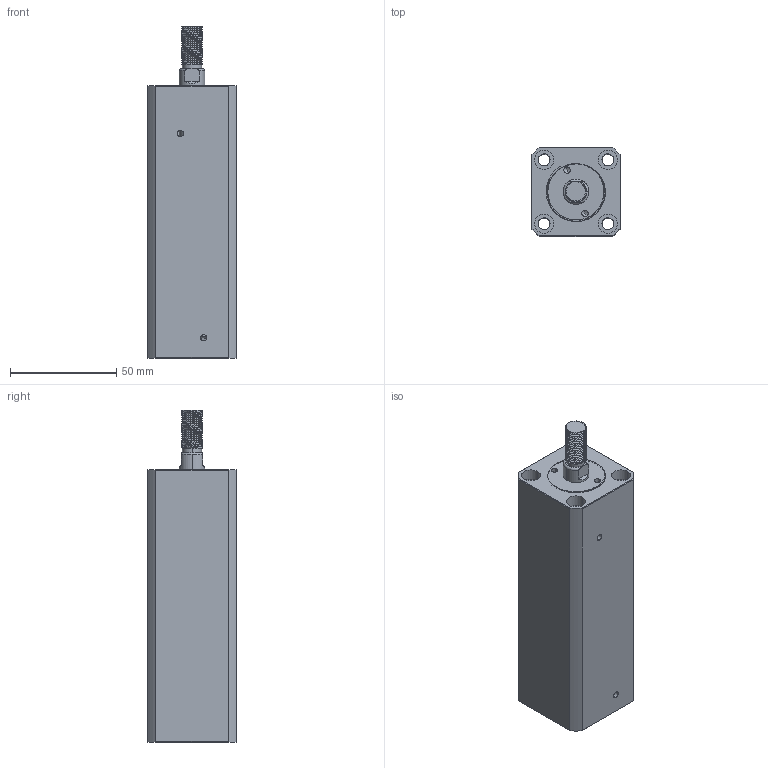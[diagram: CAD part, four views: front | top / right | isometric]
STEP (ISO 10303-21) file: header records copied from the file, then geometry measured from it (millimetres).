
FILE_DESCRIPTION (( 'STEP AP214' ), '1' );
FILE_NAME ('chtb-sdmb20x85w_asm.STEP', '2018-05-18T08:37:59', ( 'Windows' ), ( 'Microsoft' ), 'SwSTEP 2.0', 'SolidWorks 2015', '' );
FILE_SCHEMA (( 'AUTOMOTIVE_DESIGN' ));
Length unit declared in the file: millimetre
Products named in the file (4): QG_3; CHTB-SDMB20X85WHSG; CHTB-SDMB20X85NBT; chtb-sdmb20x85w_asm
Assembly tree (3 placements, depth 2):
  chtb-sdmb20x85w_asm
    CHTB-SDMB20X85NBT
    CHTB-SDMB20X85WHSG
    QG_3
Bounding box: 42 x 42 x 156 mm (x, y, z)
Volume: 190655.5 mm3; surface area: 53627 mm2
Topology: 3 solids, 3 shells, 243 faces, 660 edges, 439 vertices
Faces by surface type: cylinder 143, plane 47, torus 25, bspline 23, cone 5
Entity records: 14768 total; most frequent: CARTESIAN_POINT 8984, ORIENTED_EDGE 1312, DIRECTION 1058, EDGE_CURVE 656, VERTEX_POINT 439, AXIS2_PLACEMENT_3D 434, EDGE_LOOP 281, FACE_OUTER_BOUND 243
